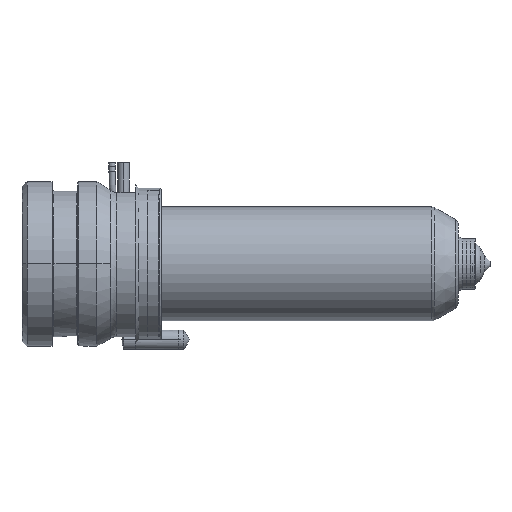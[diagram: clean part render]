
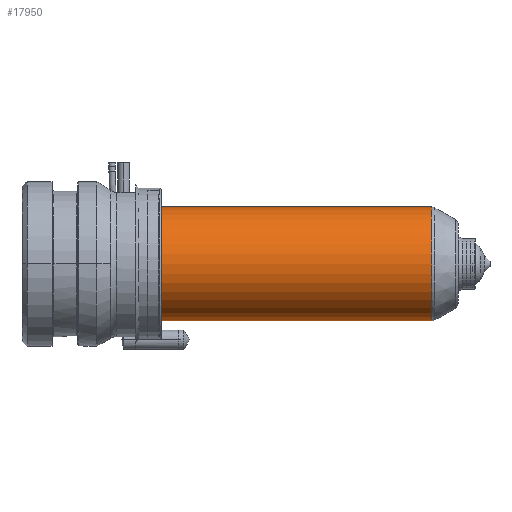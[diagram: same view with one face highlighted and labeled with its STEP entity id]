
A CAD part, left-side view. The second image highlights one B-rep face of the part: STEP entity #17950.
In plain terms, the highlighted cylindrical face has radius 9 mm (diameter 18 mm), a partial arc.
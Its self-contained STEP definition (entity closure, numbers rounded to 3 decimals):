
#17339=CARTESIAN_POINT('',(0.,-64.8,0.));
#17340=DIRECTION('',(0.,-1.,0.));
#17341=DIRECTION('',(0.,0.,1.));
#17342=AXIS2_PLACEMENT_3D('',#17339,#17340,#17341);
#17347=CARTESIAN_POINT('',(0.,-22.,0.));
#17348=DIRECTION('',(0.,1.,0.));
#17349=DIRECTION('',(0.,0.,-1.));
#17350=AXIS2_PLACEMENT_3D('',#17347,#17348,#17349);
#17355=DIRECTION('',(0.,1.,0.));
#17356=VECTOR('',#17355,42.8);
#17357=CARTESIAN_POINT('',(0.,-64.8,9.));
#17358=LINE('',#17357,#17356);
#17370=DIRECTION('',(0.,1.,0.));
#17371=VECTOR('',#17370,42.8);
#17372=CARTESIAN_POINT('',(0.,-64.8,-9.));
#17373=LINE('',#17372,#17371);
#17565=CARTESIAN_POINT('',(0.,-64.8,9.));
#17566=CARTESIAN_POINT('',(0.,-22.,9.));
#17567=VERTEX_POINT('',#17565);
#17568=VERTEX_POINT('',#17566);
#17569=CARTESIAN_POINT('',(0.,-64.8,-9.));
#17570=CARTESIAN_POINT('',(0.,-22.,-9.));
#17571=VERTEX_POINT('',#17569);
#17572=VERTEX_POINT('',#17570);
#17936=CARTESIAN_POINT('',(0.,-15.2,0.));
#17937=DIRECTION('',(0.,-1.,0.));
#17938=DIRECTION('',(0.,0.,1.));
#17939=AXIS2_PLACEMENT_3D('',#17936,#17937,#17938);
#17940=CYLINDRICAL_SURFACE('',#17939,9.);
#17942=ORIENTED_EDGE('',*,*,#17941,.F.);
#17943=ORIENTED_EDGE('',*,*,#17931,.T.);
#17945=ORIENTED_EDGE('',*,*,#17944,.T.);
#17947=ORIENTED_EDGE('',*,*,#17946,.T.);
#17948=EDGE_LOOP('',(#17942,#17943,#17945,#17947));
#17949=FACE_OUTER_BOUND('',#17948,.F.);
#17950=ADVANCED_FACE('',(#17949),#17940,.T.);
#17343=CIRCLE('',#17342,9.);
#17351=CIRCLE('',#17350,9.);
#17931=EDGE_CURVE('',#17567,#17571,#17343,.T.);
#17941=EDGE_CURVE('',#17567,#17568,#17358,.T.);
#17944=EDGE_CURVE('',#17571,#17572,#17373,.T.);
#17946=EDGE_CURVE('',#17572,#17568,#17351,.T.);
